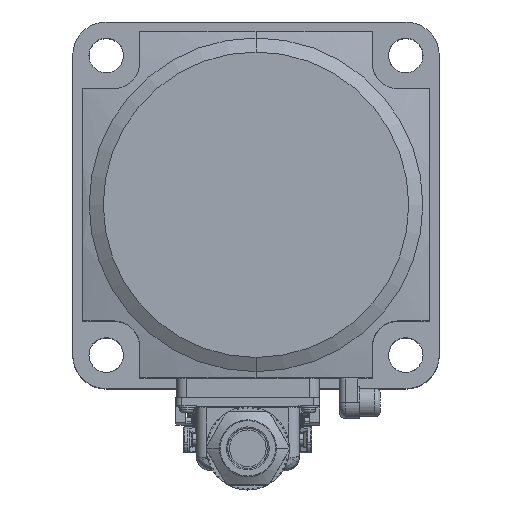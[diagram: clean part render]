
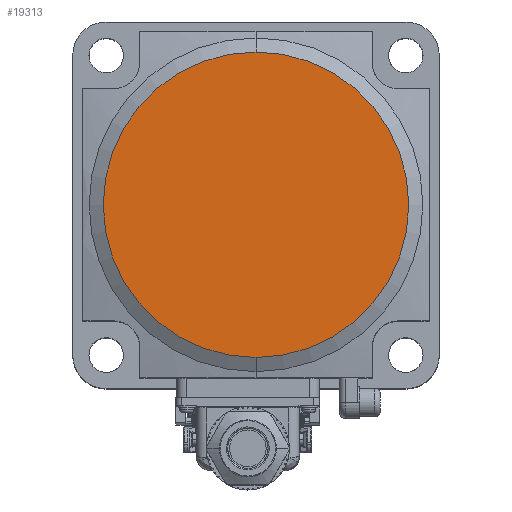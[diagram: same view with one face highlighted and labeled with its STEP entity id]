
A CAD part, top view. The second image highlights one B-rep face of the part: STEP entity #19313.
In plain terms, the highlighted planar face has unit normal (0, 0, 1).
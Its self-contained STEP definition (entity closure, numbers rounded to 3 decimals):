
#261 = ORIENTED_EDGE ( 'NONE', *, *, #22369, .F. ) ;
#1528 = FACE_OUTER_BOUND ( 'NONE', #2618, .T. ) ;
#1715 = CARTESIAN_POINT ( 'NONE',  ( 42.5, -42.5, 84. ) ) ;
#2618 = EDGE_LOOP ( 'NONE', ( #35195, #261 ) ) ;
#8524 = CARTESIAN_POINT ( 'NONE',  ( 0., 37.5, 84. ) ) ;
#9639 = DIRECTION ( 'NONE',  ( 0., 1., 0. ) ) ;
#12622 = CARTESIAN_POINT ( 'NONE',  ( 0., 0., 84. ) ) ;
#13337 = DIRECTION ( 'NONE',  ( 0., 1., 0. ) ) ;
#15444 = DIRECTION ( 'NONE',  ( 0., 0., -1. ) ) ;
#15447 = DIRECTION ( 'NONE',  ( 0., 0., -1. ) ) ;
#16315 = AXIS2_PLACEMENT_3D ( 'NONE', #12622, #15447, #9639 ) ;
#16522 = DIRECTION ( 'NONE',  ( 0., 0., -1. ) ) ;
#19313 = ADVANCED_FACE ( 'NONE', ( #1528 ), #21498, .F. ) ;
#21316 = DIRECTION ( 'NONE',  ( -1., 0., 0. ) ) ;
#21498 = PLANE ( 'NONE',  #31262 ) ;
#22369 = EDGE_CURVE ( 'NONE', #24362, #23421, #35031, .T. ) ;
#23249 = CIRCLE ( 'NONE', #29901, 37.5 ) ;
#23421 = VERTEX_POINT ( 'NONE', #8524 ) ;
#24362 = VERTEX_POINT ( 'NONE', #30826 ) ;
#27428 = EDGE_CURVE ( 'NONE', #23421, #24362, #23249, .T. ) ;
#27501 = CARTESIAN_POINT ( 'NONE',  ( 0., 0., 84. ) ) ;
#29901 = AXIS2_PLACEMENT_3D ( 'NONE', #27501, #16522, #13337 ) ;
#30826 = CARTESIAN_POINT ( 'NONE',  ( 0., -37.5, 84. ) ) ;
#31262 = AXIS2_PLACEMENT_3D ( 'NONE', #1715, #15444, #21316 ) ;
#35031 = CIRCLE ( 'NONE', #16315, 37.5 ) ;
#35195 = ORIENTED_EDGE ( 'NONE', *, *, #27428, .F. ) ;
